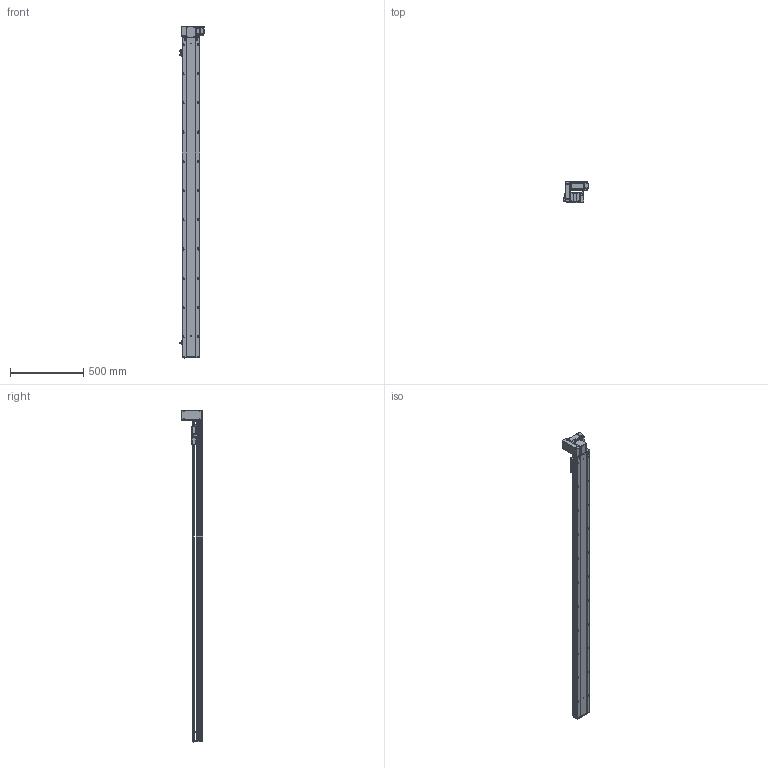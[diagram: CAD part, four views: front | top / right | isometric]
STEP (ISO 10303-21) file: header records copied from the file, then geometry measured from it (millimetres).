
FILE_DESCRIPTION (( 'STEP AP203' ), '1' );
FILE_NAME ('RY120-T-300-UL.SLDASM_1950.step', '2021-03-01T05:37:50', ( '盈信电脑' ), ( '东莞市道滘镇水果街19号' ), 'SwSTEP 2.0', 'SolidWorks 2012', '' );
FILE_SCHEMA (( 'CONFIG_CONTROL_DESIGN' ));
Length unit declared in the file: millimetre
Products named in the file (18): RY120-T蹟翐M4; RY120-T-300-UL.SLDASM_1950; RY120-T翋肮祭謫裔啣; RY120-T主同步轮轴承压盖; RY120-T萇儂欶; 滅袉蝶18-10; 侂狟400W侜督萇儂; RY120-T萇儂假蚾啣; 15; RY120-T翋肮祭盓傅釱; 覜茼ん672; RY120-T肮祭湍揤踡輸2; RY120外置感应片(140共用）; RY120-T肮祭湍揤踡輸1; RY120綴裔啣; RY120-T-300-UL倰第菁釱_1950; RY120肮祭湍臏賑輸; RY120-T-300-UL倰第奻裔啣_1950
Assembly tree (23 placements, depth 3):
  RY120-T-300-UL.SLDASM_1950
    RY120-T-300-UL倰第菁釱_1950
    RY120-T-300-UL倰第奻裔啣_1950
    RY120肮祭湍臏賑輸
    RY120綴裔啣
    覜茼ん672  x3
    RY120外置感应片(140共用）
    RY120-T肮祭湍揤踡輸1
    RY120-T肮祭湍揤踡輸2
    RY120-T翋肮祭盓傅釱
    RY120-T萇儂假蚾啣
    侂狟400W侜督萇儂
      15
    RY120-T主同步轮轴承压盖
    滅袉蝶18-10  x2
    RY120-T萇儂欶
    RY120-T蹟翐M4  x4
    RY120-T翋肮祭謫裔啣
Bounding box: 164.2 x 146 x 2271 mm (x, y, z)
Volume: 5696691.4 mm3; surface area: 2174962.8 mm2
Topology: 23 solids, 23 shells, 3108 faces, 8508 edges, 5422 vertices
Faces by surface type: plane 1452, cylinder 1246, cone 321, bspline 89
Entity records: 100170 total; most frequent: CARTESIAN_POINT 26198, ORIENTED_EDGE 15312, DIRECTION 14434, EDGE_CURVE 7656, VERTEX_POINT 5009, AXIS2_PLACEMENT_3D 4905, VECTOR 4624, LINE 4624
